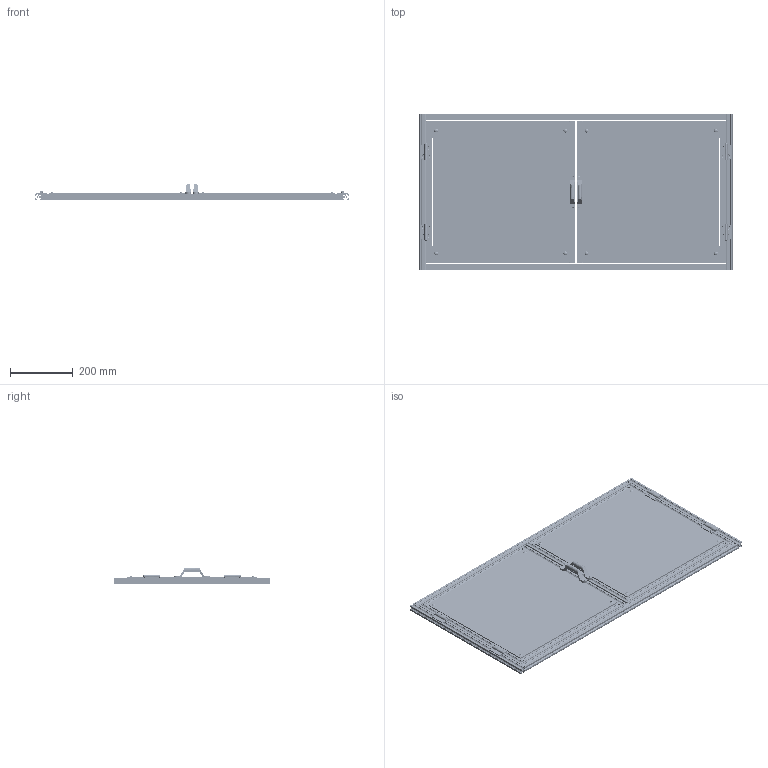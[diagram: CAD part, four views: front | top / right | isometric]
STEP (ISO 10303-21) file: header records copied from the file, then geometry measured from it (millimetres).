
FILE_DESCRIPTION(('CAx-IF Rec.Pracs.---Model Styling and Organization---1.2---2011-12-15','CAx-IF Rec.Pracs.---Geometric and Assembly Validation Properties---4.1---2014-06-16','CAx-IF Rec.Pracs.---PMI Polyline Presentation---2.0---2013-05-24'),'2;1');
FILE_NAME('Newly created project.stp','2025-06-13T07:12:47+07:00',(''),(''),'STEP Interface 2017 Sp2 by CT CoreTechnologie','3D_Kernel_IO2017 Sp2 by CT CoreTechnologie','');
FILE_SCHEMA(('AP203_CONFIGURATION_CONTROLLED_3D_DESIGN_OF_MECHANICAL_PARTS_AND_ASSEMBLIES_MIM_LF'));
Length unit declared in the file: millimetre
Products named in the file (34): Newly created project; LCF6-2020-500; LCF6-2020-960; LBIS6-20-5; LBIS6-20-5-PART1; LBIS6-20-5-PART2; LBIS6-20-5-PART3; LCF6-2020-450; LCF6-2020-437; LBLTS3535-14-C-SET(1); LBLTS3535-14; LNSN6-20-5; E-GSCB5-10; LBLTS3535-14-C-SET(2); LBLTS3535-14-C-SET(3); LBLTS3535-14-C-SET(4); LCPC4H-435-414-5-F413-G392-N6; LBLTS3535-14-C-SET(5); LBLTS3535-14-C-SET(6); LBLTS3535-14-C-SET(7); LBLTS3535-14-C-SET(8); LCEC6-2020-B; C-UWASND100; C-HHFL5-2; C-HHFL5-2-PART1; C-HHFL5-2-PART2; C-HHFL5-2-PART3; C-HHFL5-2-PART4; C-HHFL5-2-PART5; E-GTRSS5-10; LNSN6-20-4; HFBCM4-12; LNHRN6-20-5; HFBCM5-8
Assembly tree (138 placements, depth 3):
  Newly created project
    LCF6-2020-500  x2
    LCF6-2020-960  x2
    LBIS6-20-5  x4
      LBIS6-20-5-PART1
      LBIS6-20-5-PART2
      LBIS6-20-5-PART3
    LCF6-2020-450  x4
    LCF6-2020-437  x4
    LBLTS3535-14-C-SET(1)
      LBLTS3535-14
      LNSN6-20-5  x2
      E-GSCB5-10  x2
    LBLTS3535-14-C-SET(2)
      LBLTS3535-14
      LNSN6-20-5  x2
      E-GSCB5-10  x2
    LBLTS3535-14-C-SET(3)
      LBLTS3535-14
      LNSN6-20-5  x2
      E-GSCB5-10  x2
    LBLTS3535-14-C-SET(4)
      LBLTS3535-14
      LNSN6-20-5  x2
      E-GSCB5-10  x2
    LCPC4H-435-414-5-F413-G392-N6  x2
    LBLTS3535-14-C-SET(5)
      LBLTS3535-14
      LNSN6-20-5  x2
      E-GSCB5-10  x2
    LBLTS3535-14-C-SET(6)
      LBLTS3535-14
      LNSN6-20-5  x2
      E-GSCB5-10  x2
    LBLTS3535-14-C-SET(7)
      LBLTS3535-14
      LNSN6-20-5  x2
      E-GSCB5-10  x2
    LBLTS3535-14-C-SET(8)
      LBLTS3535-14
      LNSN6-20-5  x2
      E-GSCB5-10  x2
    LCEC6-2020-B  x8
    C-UWASND100  x2
    C-HHFL5-2  x4
      C-HHFL5-2-PART1
      C-HHFL5-2-PART2
      C-HHFL5-2-PART3
      C-HHFL5-2-PART4
      C-HHFL5-2-PART5
    E-GTRSS5-10  x8
    LNSN6-20-4  x4
    HFBCM4-12  x4
    LNHRN6-20-5  x16
    HFBCM5-8  x16
Bounding box: 1000 x 500 x 51.99 mm (x, y, z)
Volume: 3020326.3 mm3; surface area: 1926314.7 mm2
Topology: 152 solids, 152 shells, 31178 faces, 66054 edges, 35256 vertices
Faces by surface type: plane 31178
Entity records: 110321 total; most frequent: CARTESIAN_POINT 18805, ORIENTED_EDGE 18610, DIRECTION 17765, VECTOR 9305, LINE 9305, EDGE_CURVE 9305, VERTEX_POINT 5270, AXIS2_PLACEMENT_3D 4230
